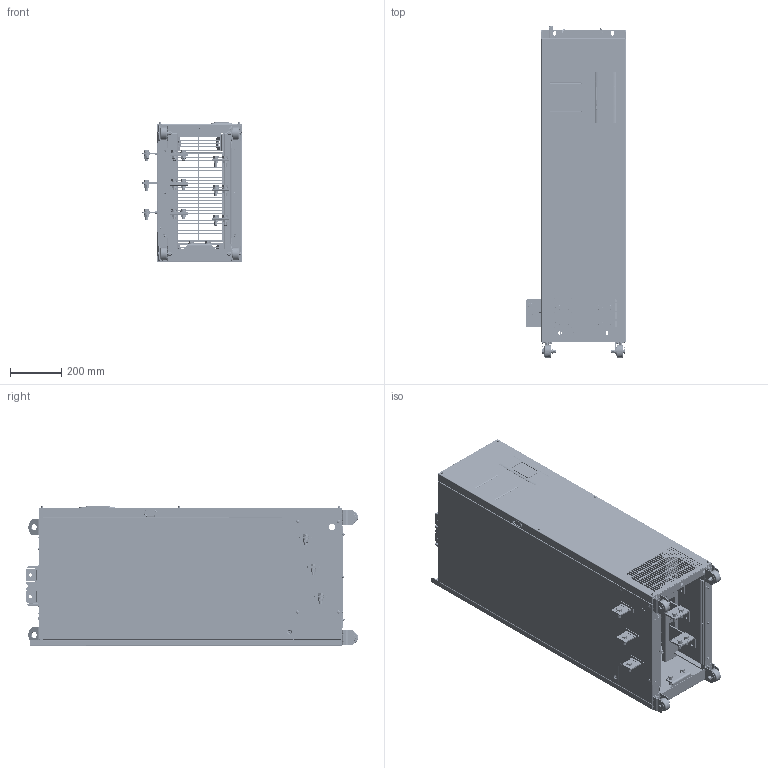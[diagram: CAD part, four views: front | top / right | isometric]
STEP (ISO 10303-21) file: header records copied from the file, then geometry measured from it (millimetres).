
FILE_DESCRIPTION((''),'2;1');
FILE_NAME('000_MVT284ZG-520_ASM','2021-12-14T',('h2718'),(''),'CREO PARAMETRIC BY PTC INC, 2015290','CREO PARAMETRIC BY PTC INC, 2015290','');
FILE_SCHEMA(('AP203_CONFIGURATION_CONTROLLED_3D_DESIGN_OF_MECHANICAL_PARTS_AND_ASSEMBLIES_MIM_LF { 1 0 10303 403 2 1 2 }'));
Products named in the file (103): 20310670-LJ_AF1_3; 20310670-LJ_AF0_ASM_3_ASM; 20310655-LJ_AF1_6_1; 20310655-LJ_AF1_6_2; 20310655-LJ_AF1_6_ASM; 20310655-LJ_AF0_ASM_6_ASM; 20310656-LJ_AF1_4_1; 20310656-LJ_AF1_4_2; 20310656-LJ_AF1_4_3; 20310656-LJ_AF1_4_4; 20310656-LJ_AF1_4_5; 20310656-LJ_AF1_4_ASM; 20310656-LJ_AF0_ASM_3_ASM; 20310657-LJ_AF1_4; 20310657-LJ_AF0_ASM_5_ASM; 20310668-LJ_3; HC-NZ-M12-ZC_1; 20310668-LJ_ASM_4_ASM; 20310665-LJ_AF0_3; 20310667-LJ_AF1_3; 20310667-LJ_AF0_ASM_3_ASM; 20310666-LJ_AF0_3; 20130165-ZP_AF0_ASM_4_ASM; 20310667-LJ_AF3_3; 20310667-LJ_AF2_ASM_3_ASM; 20310666-LJ_AF1_3; 20130165-ZP_AF1_ASM_4_ASM; 20110121-ZP_ASM_8_ASM; 20460173-LJ_3; 20460173-LJ_ASM_3_ASM; 20460174-LJ_3; 20460174-LJ_ASM_3_ASM; SIT2013AG60; HC-TPR-5-10-SL_1; 20460175-LJ_ASM_1_ASM; 20460176-LJ_1; 20460176-LJ_ASM_1_ASM; 20190055-ZP_ASM_6_ASM; 20350096-LJ_AF1_3; 20350096-LJ_AF0_ASM_3_ASM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
Assembly tree (221 placements, depth 7):
  000_MVT284ZG-520_ASM
    000_MVT284ZG_ASM_9_ASM
      20190055-ZP_ASM_6_ASM
        20110121-ZP_ASM_8_ASM
          20310670-LJ_AF0_ASM_3_ASM
            20310670-LJ_AF1_3
          20310655-LJ_AF0_ASM_6_ASM
            20310655-LJ_AF1_6_ASM
              20310655-LJ_AF1_6_1
              20310655-LJ_AF1_6_2
          20310656-LJ_AF0_ASM_3_ASM
            20310656-LJ_AF1_4_ASM
              20310656-LJ_AF1_4_1
              20310656-LJ_AF1_4_2
              20310656-LJ_AF1_4_3
              20310656-LJ_AF1_4_4
              20310656-LJ_AF1_4_5
          20310657-LJ_AF0_ASM_5_ASM
            20310657-LJ_AF1_4
          20310668-LJ_ASM_4_ASM
            20310668-LJ_3
            HC-NZ-M12-ZC_1  x2
          20310665-LJ_AF0_3
          20130165-ZP_AF0_ASM_4_ASM
            20310667-LJ_AF0_ASM_3_ASM
              20310667-LJ_AF1_3
            20310666-LJ_AF0_3
          20130165-ZP_AF1_ASM_4_ASM
            20310667-LJ_AF2_ASM_3_ASM
              20310667-LJ_AF3_3
            20310666-LJ_AF1_3
        20460173-LJ_ASM_3_ASM
          20460173-LJ_3
        20460174-LJ_ASM_3_ASM
          20460174-LJ_3
        20460175-LJ_ASM_1_ASM
          SIT2013AG60
          HC-TPR-5-10-SL_1
        20460176-LJ_ASM_1_ASM
          20460176-LJ_1
      20350092-ZP_ASM_3_ASM
        20350096-LJ_AF0_ASM_3_ASM
          20350096-LJ_AF1_3
        20350119-LJ_AF0_ASM_3_ASM
          20350119-LJ_AF1_4
        20350103-LJ_AF0_ASM_1_ASM
          20350103-LJ_AF1_1
        20350102-LJ_AF0_ASM_1_ASM
          20350102-LJ_AF1_1
        20350101-LJ_AF0_ASM_1_ASM
          20350101-LJ_AF1_1
      20350172-ZP_ASM_2_ASM
        20350108-LJ_AF0_ASM_1_ASM
          20350108-LJ_AF1_2
        20350106-LJ_AF0_ASM_1_ASM
          20350106-LJ_AF1_2
        20350104-LJ_AF0_ASM_1_ASM
          20350104-LJ_AF1_2
      20310723-LJ_ASM_1_ASM  x6
        20310723-LJ_1
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Bounding box: 390.5 x 1297.5 x 547.38 mm (x, y, z)
Volume: 6382742.9 mm3; surface area: 6999054 mm2
Topology: 228 solids, 246 shells, 15567 faces, 41782 edges, 26913 vertices
Faces by surface type: plane 9560, cylinder 3824, cone 1197, bspline 515, torus 316, sphere 75, extrusion 70, revolution 10
Entity records: 518298 total; most frequent: CARTESIAN_POINT 105306, ORIENTED_EDGE 61318, DIRECTION 59940, PRESENTATION_STYLE_ASSIGNMENT 33680, STYLED_ITEM 31181, CURVE_STYLE 31080, EDGE_CURVE 30688, VECTOR 21917
